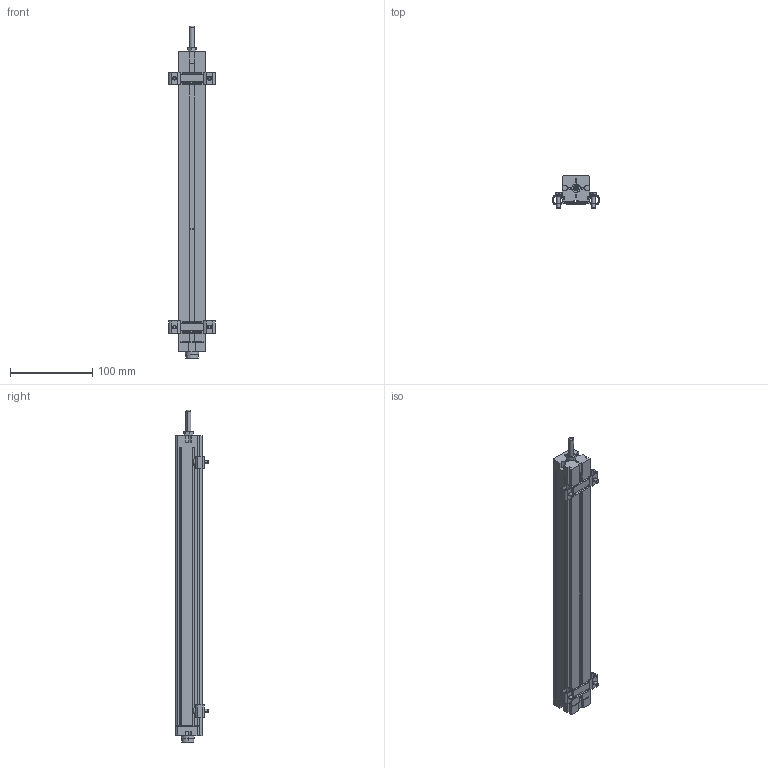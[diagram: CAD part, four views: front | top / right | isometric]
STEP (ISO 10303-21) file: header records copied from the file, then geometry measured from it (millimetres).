
FILE_DESCRIPTION(('STEP AP214'),'1');
FILE_NAME('burster_8719-5375_ckwgtfjy7jbwhjzqtcjsutfdm.stp','2017-04-19T12:52:19',('TraceParts'),('TraceParts S.A.'),'Spatial InterOp 3D',' ',' ');
FILE_SCHEMA(('automotive_design'));
Length unit declared in the file: millimetre
Products named in the file (1): burster_8719-5375_ckwgtfjy7jbwhjzqtcjsutfdm
Bounding box: 56 x 39.7 x 403.3 mm (x, y, z)
Volume: 366017.1 mm3; surface area: 69856.4 mm2
Topology: 1 solids, 3 shells, 674 faces, 1681 edges, 1006 vertices
Faces by surface type: plane 387, cylinder 195, cone 58, torus 12, bspline 12, sphere 10
Entity records: 25304 total; most frequent: CARTESIAN_POINT 3772, DIRECTION 3438, ORIENTED_EDGE 3342, EDGE_CURVE 1671, AXIS2_PLACEMENT_3D 1176, LINE 1086, VECTOR 1086, VERTEX_POINT 1006
